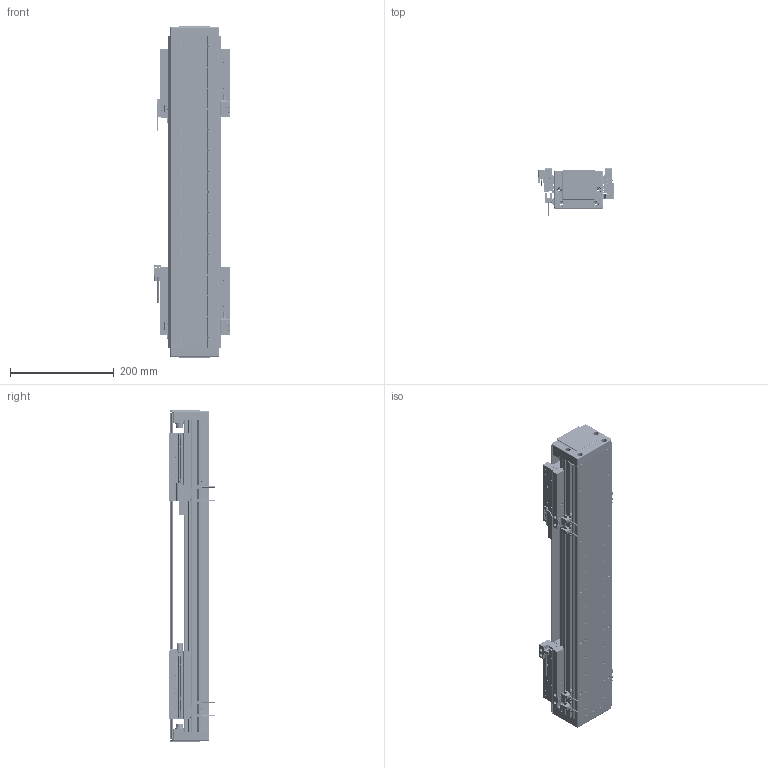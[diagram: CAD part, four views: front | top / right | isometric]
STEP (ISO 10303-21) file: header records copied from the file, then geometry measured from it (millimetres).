
FILE_DESCRIPTION (( 'STEP AP203' ), '1' );
FILE_NAME ('DA-B95-2-B15-T260-C010-0.2 直线电机.STEP', '2023-05-06T06:22:54', ( '微软用户' ), ( '微软中国' ), 'SwSTEP 2.0', 'SolidWorks 2019', '' );
FILE_SCHEMA (( 'CONFIG_CONTROL_DESIGN' ));
Length unit declared in the file: millimetre
Products named in the file (32): 复件 DKW-GYP-ZJ-00 中间光电感应片^DA-A95-B15-T-C010-0.2-N 直线电机; 66245-BU95-V 幗紩賑怢; IU-BU95-L-00 菁釱_L600; 复件 六角薄螺母 M3^DA-A95-B15-T-C010-0.2-N 直线电机_GB_FASTENER_NUT_STNAB M3-C; LMDK-2-R001-V5-L02-C1-F00，0.2M 读数头^DA-A95-B15-T-C010-0.2-N 直线电机_DMA-010-0.2; PM-T45 光电开关^DA-A95-B15-T-C010-0.2-N 直线电机; 复件 DA95-HK-GT-00 滑块钢轨^66245-BU95-V-00 一体化滑动台板; 66245-BU95-V-00 珨极趙賑雄怢啣; 葩璃 PM-Y45^DA-A95-B15-T-C010-0.2-N 眻盄萇儂; 复件 DA95-DB-00  挡板^66245-BU95-V 滚珠滑台; ｸｴｼ DA95-Txxx-002-00 ｸﾇｰ蘓DA-A95-B15-T-C010-0.2-N ﾖｱﾏﾟｵ扈銈T+30; DA-B95-2-B15-T260-C010-0.2 眻盄萇儂; 复件 DA95-B15-YB-B-00 压板B^66245-BU95-V 滚珠滑台; 葩璃 BKM015-W060-C1-TP-DA-0.2^DA-A95-B15-T-C010-0.2-N 眻盄萇儂; IU-BU95-L 菁釱絳寢; B15 XD-U-02L ｴﾅﾕ､ｳﾟ^DA-A95-B15-T-C010-0.2-N ﾖｱﾏﾟｵ扈銈XD-U-02L; 复件 DA95-DK-00 挡块^66245-BU95-V 滚珠滑台; DA-A95-GYP-00 光电感应片^DA-A95-B15-T-C010-0.2-N 直线电机; 复件 66245-BU95-HT-V-01 滑动台板^66245-BU95-V-00 一体化滑动台板; 葩璃 DA95-B15-DP--B-00 菜えB^66245-BU95-V 幗紩賑怢; 复件 DKW-KGZ-ZJ-00 中间光电开关支架^DA-A95-B15-T-C010-0.2-N 直线电机; 复件 纯铜油杯 6x6mm^66245-BU95-V 滚珠滑台; 葩璃 DA95-B15-DP-A-00 菜えA^66245-BU95-V 幗紩賑怢; 复件 DA95-B15-YB-A-00 压板A^66245-BU95-V 滚珠滑台; 复件 DKW-HXJ-JY-00 缓冲橡胶^DA-A95-B15-T-C010-0.2-N 直线电机; DA95-DG-H-01^DA-A95-B15-T-C010-0.2-N 眻盄萇儂; DA95-HXJ-00 缓冲橡胶^DA-A95-B15-T-C010-0.2-N 直线电机; 复件 DA95-MFP-01 密封片^66245-BU95-V 滚珠滑台; 葩璃 BKMA01-W060-TRL^DA-A95-B15-T-C010-0.2-N 眻盄萇儂; 葩璃 DA95-GT-T-00^IU-BU95-L 菁釱絳寢_DA95
Assembly tree (76 placements, depth 4):
  DA-B95-2-B15-T260-C010-0.2 眻盄萇儂
    IU-BU95-L 菁釱絳寢
      IU-BU95-L-00 菁釱_L600
      葩璃 DA95-GT-T-00^IU-BU95-L 菁釱絳寢_DA95  x2
    66245-BU95-V 幗紩賑怢
      66245-BU95-V-00 珨极趙賑雄怢啣
        复件 66245-BU95-HT-V-01 滑动台板^66245-BU95-V-00 一体化滑动台板
        复件 DA95-HK-GT-00 滑块钢轨^66245-BU95-V-00 一体化滑动台板  x2
      葩璃 DA95-B15-DP-A-00 菜えA^66245-BU95-V 幗紩賑怢
      复件 DA95-B15-YB-A-00 压板A^66245-BU95-V 滚珠滑台
      复件 DA95-B15-YB-B-00 压板B^66245-BU95-V 滚珠滑台
      复件 DA95-DB-00  挡板^66245-BU95-V 滚珠滑台  x4
      复件 DA95-DK-00 挡块^66245-BU95-V 滚珠滑台  x2
      复件 DA95-MFP-01 密封片^66245-BU95-V 滚珠滑台  x4
      复件 纯铜油杯 6x6mm^66245-BU95-V 滚珠滑台  x2
      葩璃 DA95-B15-DP--B-00 菜えB^66245-BU95-V 幗紩賑怢
    66245-BU95-V 幗紩賑怢
      66245-BU95-V-00 珨极趙賑雄怢啣
        复件 66245-BU95-HT-V-01 滑动台板^66245-BU95-V-00 一体化滑动台板
        复件 DA95-HK-GT-00 滑块钢轨^66245-BU95-V-00 一体化滑动台板  x2
      葩璃 DA95-B15-DP-A-00 菜えA^66245-BU95-V 幗紩賑怢
      复件 DA95-B15-YB-A-00 压板A^66245-BU95-V 滚珠滑台
      复件 DA95-B15-YB-B-00 压板B^66245-BU95-V 滚珠滑台
      复件 DA95-DB-00  挡板^66245-BU95-V 滚珠滑台  x4
      复件 DA95-DK-00 挡块^66245-BU95-V 滚珠滑台  x2
      复件 DA95-MFP-01 密封片^66245-BU95-V 滚珠滑台  x4
      复件 纯铜油杯 6x6mm^66245-BU95-V 滚珠滑台  x2
      葩璃 DA95-B15-DP--B-00 菜えB^66245-BU95-V 幗紩賑怢
    DA-A95-GYP-00 光电感应片^DA-A95-B15-T-C010-0.2-N 直线电机  x2
    LMDK-2-R001-V5-L02-C1-F00，0.2M 读数头^DA-A95-B15-T-C010-0.2-N 直线电机_DMA-010-0.2  x2
    复件 DKW-KGZ-ZJ-00 中间光电开关支架^DA-A95-B15-T-C010-0.2-N 直线电机
    葩璃 PM-Y45^DA-A95-B15-T-C010-0.2-N 眻盄萇儂
    复件 DKW-GYP-ZJ-00 中间光电感应片^DA-A95-B15-T-C010-0.2-N 直线电机
    葩璃 BKM015-W060-C1-TP-DA-0.2^DA-A95-B15-T-C010-0.2-N 眻盄萇儂  x2
    复件 DKW-HXJ-JY-00 缓冲橡胶^DA-A95-B15-T-C010-0.2-N 直线电机  x2
    PM-T45 光电开关^DA-A95-B15-T-C010-0.2-N 直线电机  x4
    B15 XD-U-02L ｴﾅﾕ､ｳﾟ^DA-A95-B15-T-C010-0.2-N ﾖｱﾏﾟｵ扈銈XD-U-02L
    DA95-DG-H-01^DA-A95-B15-T-C010-0.2-N 眻盄萇儂  x2
    ｸｴｼ DA95-Txxx-002-00 ｸﾇｰ蘓DA-A95-B15-T-C010-0.2-N ﾖｱﾏﾟｵ扈銈T+30
    DA95-HXJ-00 缓冲橡胶^DA-A95-B15-T-C010-0.2-N 直线电机  x4
    葩璃 BKMA01-W060-TRL^DA-A95-B15-T-C010-0.2-N 眻盄萇儂
    复件 六角薄螺母 M3^DA-A95-B15-T-C010-0.2-N 直线电机_GB_FASTENER_NUT_STNAB M3-C  x6
Bounding box: 145.4 x 90.2 x 640 mm (x, y, z)
Volume: 3160336.2 mm3; surface area: 948065.6 mm2
Topology: 71 solids, 89 shells, 4102 faces, 10432 edges, 6397 vertices
Faces by surface type: cylinder 1716, plane 1434, cone 544, bspline 344, torus 60, sphere 4
Entity records: 77137 total; most frequent: CARTESIAN_POINT 20856, ORIENTED_EDGE 10802, DIRECTION 10791, EDGE_CURVE 5401, AXIS2_PLACEMENT_3D 4011, VERTEX_POINT 3412, VECTOR 2769, LINE 2769
